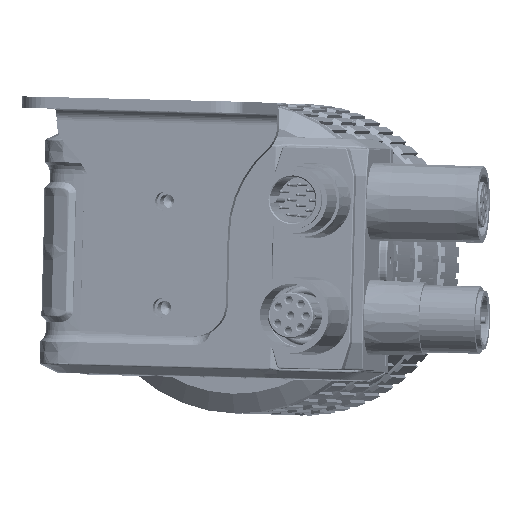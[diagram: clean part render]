
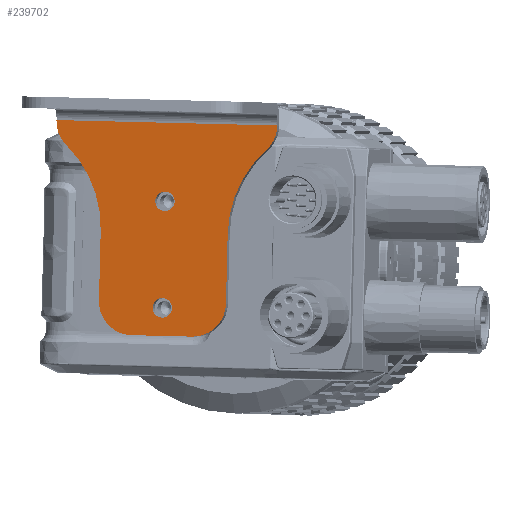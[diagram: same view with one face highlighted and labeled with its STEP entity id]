
A CAD part, top view. The second image highlights one B-rep face of the part: STEP entity #239702.
In plain terms, the highlighted planar face has unit normal (-0.175, 0.004, 0.985) as drawn and (0, 0, 1) by its records, which use the part's own axes.
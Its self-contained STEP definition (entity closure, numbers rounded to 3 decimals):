
#239068=CARTESIAN_POINT('',(0.,18.,-18.));
#239069=DIRECTION('',(0.,0.,1.));
#239070=DIRECTION('',(-1.,0.,0.));
#239071=AXIS2_PLACEMENT_3D('',#239068,#239069,#239070);
#239073=CARTESIAN_POINT('',(0.,18.,-18.));
#239074=DIRECTION('',(0.,0.,1.));
#239075=DIRECTION('',(1.,0.,0.));
#239076=AXIS2_PLACEMENT_3D('',#239073,#239074,#239075);
#239078=CARTESIAN_POINT('',(0.,37.,-18.));
#239079=DIRECTION('',(0.,0.,1.));
#239080=DIRECTION('',(-1.,0.,0.));
#239081=AXIS2_PLACEMENT_3D('',#239078,#239079,#239080);
#239083=CARTESIAN_POINT('',(0.,37.,-18.));
#239084=DIRECTION('',(0.,0.,1.));
#239085=DIRECTION('',(1.,0.,0.));
#239086=AXIS2_PLACEMENT_3D('',#239083,#239084,#239085);
#239088=CARTESIAN_POINT('',(-5.5,36.,-18.));
#239089=DIRECTION('',(0.,0.,1.));
#239090=DIRECTION('',(0.,1.,0.));
#239091=AXIS2_PLACEMENT_3D('',#239088,#239089,#239090);
#239093=CARTESIAN_POINT('',(5.5,36.,-18.));
#239094=DIRECTION('',(0.,0.,1.));
#239095=DIRECTION('',(1.,0.,0.));
#239096=AXIS2_PLACEMENT_3D('',#239093,#239094,#239095);
#239098=CARTESIAN_POINT('',(14.,4.051,-18.));
#239099=DIRECTION('',(0.,0.,1.));
#239100=DIRECTION('',(1.,0.,0.));
#239101=AXIS2_PLACEMENT_3D('',#239098,#239099,#239100);
#239103=DIRECTION('',(-1.,0.,0.));
#239104=VECTOR('',#239103,40.);
#239105=CARTESIAN_POINT('',(20.,4.,-18.));
#239106=LINE('',#239105,#239104);
#239107=CARTESIAN_POINT('',(-14.,4.051,-18.));
#239108=DIRECTION('',(0.,0.,1.));
#239109=DIRECTION('',(-0.679,0.734,0.));
#239110=AXIS2_PLACEMENT_3D('',#239107,#239108,#239109);
#239184=DIRECTION('',(-1.,0.,0.));
#239185=VECTOR('',#239184,11.);
#239186=CARTESIAN_POINT('',(5.5,42.,-18.));
#239187=LINE('',#239186,#239185);
#239200=DIRECTION('',(0.,1.,0.));
#239201=VECTOR('',#239200,12.5);
#239202=CARTESIAN_POINT('',(11.5,23.5,-18.));
#239203=LINE('',#239202,#239201);
#239208=CARTESIAN_POINT('',(32.,23.5,-18.));
#239209=DIRECTION('',(0.,0.,-1.));
#239210=DIRECTION('',(-0.679,-0.734,0.));
#239211=AXIS2_PLACEMENT_3D('',#239208,#239209,#239210);
#239230=DIRECTION('',(0.,1.,0.));
#239231=VECTOR('',#239230,0.051);
#239232=CARTESIAN_POINT('',(20.,4.,-18.));
#239233=LINE('',#239232,#239231);
#239238=DIRECTION('',(0.,-1.,0.));
#239239=VECTOR('',#239238,12.5);
#239240=CARTESIAN_POINT('',(-11.5,36.,-18.));
#239241=LINE('',#239240,#239239);
#239259=CARTESIAN_POINT('',(-32.,23.5,-18.));
#239260=DIRECTION('',(0.,0.,-1.));
#239261=DIRECTION('',(1.,0.,0.));
#239262=AXIS2_PLACEMENT_3D('',#239259,#239260,#239261);
#239268=DIRECTION('',(0.,1.,0.));
#239269=VECTOR('',#239268,0.051);
#239270=CARTESIAN_POINT('',(-20.,4.,-18.));
#239271=LINE('',#239270,#239269);
#239284=CARTESIAN_POINT('',(20.,4.,-18.));
#239285=CARTESIAN_POINT('',(-20.,4.,-18.));
#239286=VERTEX_POINT('',#239284);
#239287=VERTEX_POINT('',#239285);
#239300=CARTESIAN_POINT('',(-1.75,37.,-18.));
#239301=CARTESIAN_POINT('',(1.75,37.,-18.));
#239302=VERTEX_POINT('',#239300);
#239303=VERTEX_POINT('',#239301);
#239304=CARTESIAN_POINT('',(-1.75,18.,-18.));
#239305=CARTESIAN_POINT('',(1.75,18.,-18.));
#239306=VERTEX_POINT('',#239304);
#239307=VERTEX_POINT('',#239305);
#239349=CARTESIAN_POINT('',(-11.5,23.5,-18.));
#239351=VERTEX_POINT('',#239349);
#239353=CARTESIAN_POINT('',(11.5,23.5,-18.));
#239355=VERTEX_POINT('',#239353);
#239360=CARTESIAN_POINT('',(-5.5,42.,-18.));
#239361=VERTEX_POINT('',#239360);
#239362=CARTESIAN_POINT('',(-11.5,36.,-18.));
#239363=VERTEX_POINT('',#239362);
#239368=CARTESIAN_POINT('',(11.5,36.,-18.));
#239369=VERTEX_POINT('',#239368);
#239370=CARTESIAN_POINT('',(5.5,42.,-18.));
#239371=VERTEX_POINT('',#239370);
#239376=CARTESIAN_POINT('',(-18.075,8.455,-18.));
#239377=VERTEX_POINT('',#239376);
#239378=CARTESIAN_POINT('',(-20.,4.051,-18.));
#239379=VERTEX_POINT('',#239378);
#239380=CARTESIAN_POINT('',(20.,4.051,-18.));
#239381=CARTESIAN_POINT('',(18.075,8.455,-18.));
#239382=VERTEX_POINT('',#239380);
#239383=VERTEX_POINT('',#239381);
#239660=CARTESIAN_POINT('',(33.5,4.,-18.));
#239661=DIRECTION('',(0.,0.,1.));
#239662=DIRECTION('',(0.,1.,0.));
#239663=AXIS2_PLACEMENT_3D('',#239660,#239661,#239662);
#239664=PLANE('',#239663);
#239666=ORIENTED_EDGE('',*,*,#239665,.F.);
#239668=ORIENTED_EDGE('',*,*,#239667,.F.);
#239670=ORIENTED_EDGE('',*,*,#239669,.F.);
#239672=ORIENTED_EDGE('',*,*,#239671,.F.);
#239674=ORIENTED_EDGE('',*,*,#239673,.F.);
#239676=ORIENTED_EDGE('',*,*,#239675,.F.);
#239678=ORIENTED_EDGE('',*,*,#239677,.F.);
#239679=ORIENTED_EDGE('',*,*,#239655,.T.);
#239681=ORIENTED_EDGE('',*,*,#239680,.T.);
#239683=ORIENTED_EDGE('',*,*,#239682,.F.);
#239685=ORIENTED_EDGE('',*,*,#239684,.F.);
#239687=ORIENTED_EDGE('',*,*,#239686,.F.);
#239688=EDGE_LOOP('',(#239666,#239668,#239670,#239672,#239674,#239676,#239678,
#239679,#239681,#239683,#239685,#239687));
#239689=FACE_OUTER_BOUND('',#239688,.F.);
#239691=ORIENTED_EDGE('',*,*,#239690,.T.);
#239693=ORIENTED_EDGE('',*,*,#239692,.T.);
#239694=EDGE_LOOP('',(#239691,#239693));
#239695=FACE_BOUND('',#239694,.F.);
#239697=ORIENTED_EDGE('',*,*,#239696,.T.);
#239699=ORIENTED_EDGE('',*,*,#239698,.T.);
#239700=EDGE_LOOP('',(#239697,#239699));
#239701=FACE_BOUND('',#239700,.F.);
#239702=ADVANCED_FACE('',(#239689,#239695,#239701),#239664,.T.);
#239072=CIRCLE('',#239071,1.75);
#239077=CIRCLE('',#239076,1.75);
#239082=CIRCLE('',#239081,1.75);
#239087=CIRCLE('',#239086,1.75);
#239092=CIRCLE('',#239091,6.);
#239097=CIRCLE('',#239096,6.);
#239102=CIRCLE('',#239101,6.);
#239111=CIRCLE('',#239110,6.);
#239212=CIRCLE('',#239211,20.5);
#239263=CIRCLE('',#239262,20.5);
#239655=EDGE_CURVE('',#239286,#239287,#239106,.T.);
#239665=EDGE_CURVE('',#239361,#239363,#239092,.T.);
#239667=EDGE_CURVE('',#239371,#239361,#239187,.T.);
#239669=EDGE_CURVE('',#239369,#239371,#239097,.T.);
#239671=EDGE_CURVE('',#239355,#239369,#239203,.T.);
#239673=EDGE_CURVE('',#239383,#239355,#239212,.T.);
#239675=EDGE_CURVE('',#239382,#239383,#239102,.T.);
#239677=EDGE_CURVE('',#239286,#239382,#239233,.T.);
#239680=EDGE_CURVE('',#239287,#239379,#239271,.T.);
#239682=EDGE_CURVE('',#239377,#239379,#239111,.T.);
#239684=EDGE_CURVE('',#239351,#239377,#239263,.T.);
#239686=EDGE_CURVE('',#239363,#239351,#239241,.T.);
#239690=EDGE_CURVE('',#239302,#239303,#239082,.T.);
#239692=EDGE_CURVE('',#239303,#239302,#239087,.T.);
#239696=EDGE_CURVE('',#239306,#239307,#239072,.T.);
#239698=EDGE_CURVE('',#239307,#239306,#239077,.T.);
